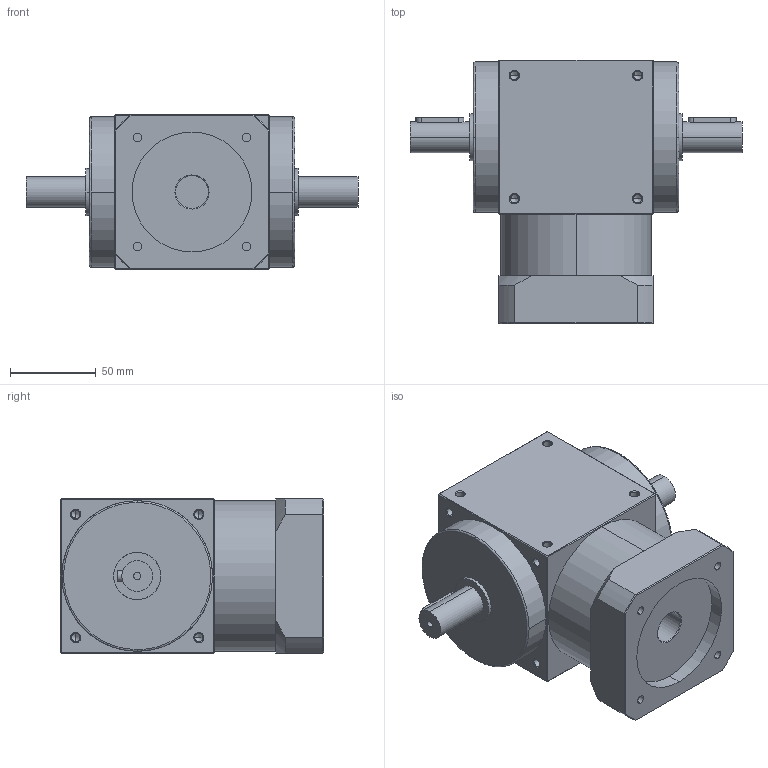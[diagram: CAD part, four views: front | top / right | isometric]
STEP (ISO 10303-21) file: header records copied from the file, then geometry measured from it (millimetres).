
FILE_DESCRIPTION (( 'STEP AP214' ), '1' );
FILE_NAME ('AT090-FH-001 19-70-90-M6.STEP', '2020-10-08T09:37:00', ( '微软用户' ), ( '微软中国' ), 'SwSTEP 2.0', 'SolidWorks 2014', '' );
FILE_SCHEMA (( 'AUTOMOTIVE_DESIGN' ));
Length unit declared in the file: millimetre
Products named in the file (2): AT090-FH-001 19-70-90-M6
Bounding box: 194 x 154 x 90 mm (x, y, z)
Volume: 1323044.7 mm3; surface area: 104788.3 mm2
Topology: 2 solids, 2 shells, 272 faces, 696 edges, 402 vertices
Faces by surface type: cylinder 120, cone 90, plane 58, bspline 4
Entity records: 12033 total; most frequent: CARTESIAN_POINT 3055, ORIENTED_EDGE 1312, DIRECTION 1286, EDGE_CURVE 656, AXIS2_PLACEMENT_3D 504, VERTEX_POINT 402, EDGE_LOOP 310, VECTOR 278
